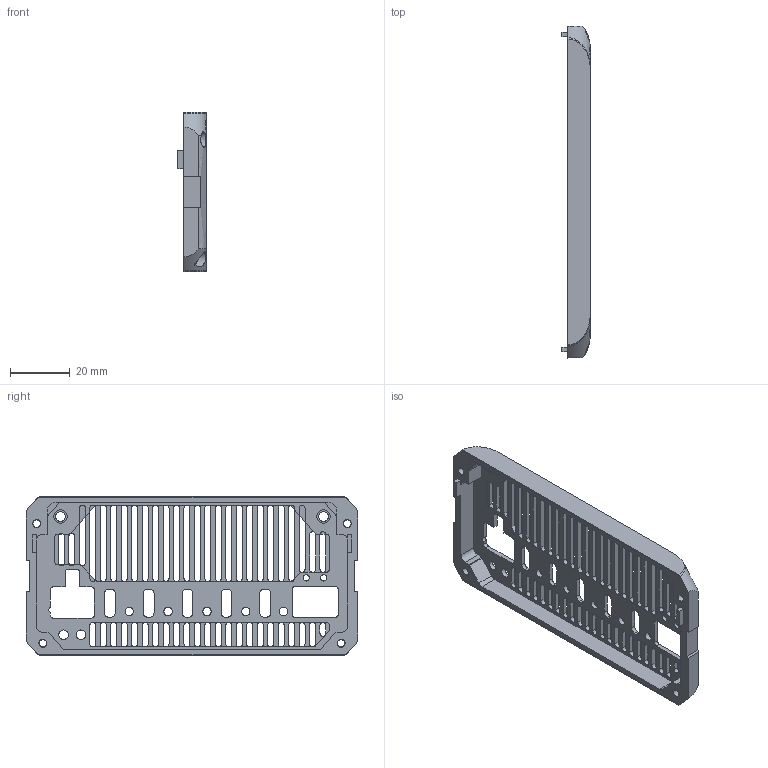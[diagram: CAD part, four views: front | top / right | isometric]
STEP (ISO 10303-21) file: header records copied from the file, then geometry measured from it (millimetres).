
FILE_DESCRIPTION(/* description */ ('Mechanical assembly'),/* implementation_level */ '2;1');
FILE_NAME(/* name */ 'cnc-milled-front-panel-al.step',/* author */ 'Antmicro',/* time_stamp */ '2026-04-10T14:20:06.931432+02:00',/* commit_sha */ 'eddb39f28ccbc5f8daa44304dfdfea7f8db63fb1',/* commit_msg */ '[#94115] Update part description',/* generator */ 'stephen',/* generator_ver */ '0.0.1');
FILE_SCHEMA(('AUTOMOTIVE_DESIGN { 1 0 10303 214 1 1 1 1 }'));
Length unit declared in the file: millimetre
Products named in the file (3): C-JAT-FP-AL-A
Assembly tree (2 placements, depth 2):
  C-JAT-FP-AL-A
    C-JAT-FP-AL-A
    C-JAT-FP-AL-A
Bounding box: 9.5 x 111 x 53.5 mm (x, y, z)
Volume: 17218.7 mm3; surface area: 24847.6 mm2
Topology: 2 solids, 2 shells, 524 faces, 1562 edges, 1046 vertices
Faces by surface type: plane 265, cylinder 247, cone 8, bspline 4
Full cylindrical faces by diameter (mm): 2.1 x4, 2.5 x4, 2.7 x4, 2.8 x10, 3.2 x6, 4.5 x2, 5.1 x8
Entity records: 42758 total; most frequent: CARTESIAN_POINT 11629, DIRECTION 5818, LINE 3484, VECTOR 3484, ORIENTED_EDGE 3124, PCURVE 3124, DEFINITIONAL_REPRESENTATION 3124, EDGE_CURVE 1562
